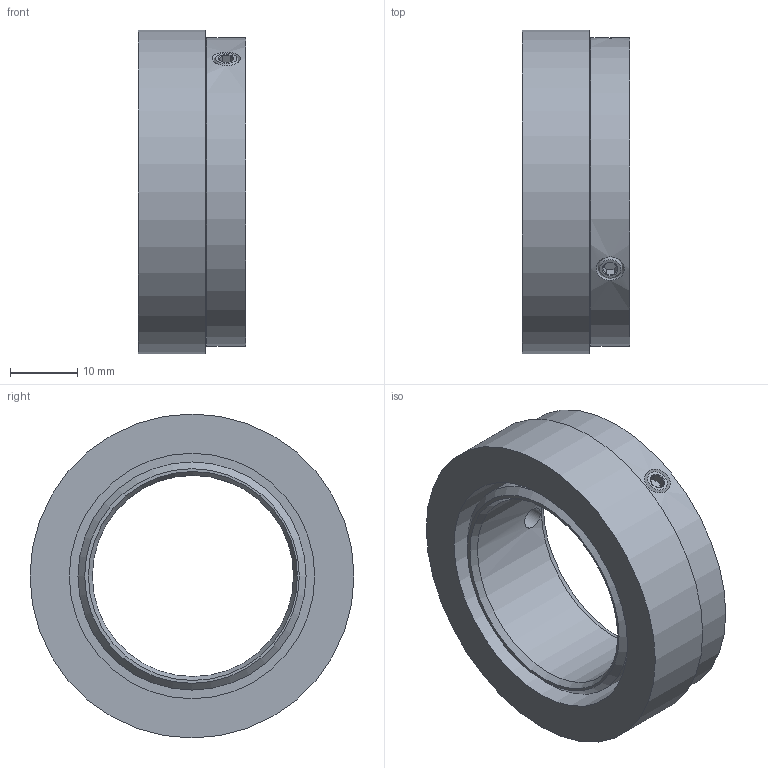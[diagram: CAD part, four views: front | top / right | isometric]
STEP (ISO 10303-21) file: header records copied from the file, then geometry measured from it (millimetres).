
FILE_DESCRIPTION (( 'STEP AP203' ), '1' );
FILE_NAME ('8.RI50.048.3000.112.STEP', '2013-07-16T07:59:08', ( 'Hodot' ), ( '' ), 'SwSTEP 2.0', 'SolidWorks 2012', '' );
FILE_SCHEMA (( 'CONFIG_CONTROL_DESIGN' ));
Length unit declared in the file: millimetre
Products named in the file (1): 8.RI50.048.3000.112
Bounding box: 16 x 48.3 x 48.3 mm (x, y, z)
Volume: 15136 mm3; surface area: 9621.5 mm2
Topology: 4 solids, 4 shells, 54 faces, 103 edges, 59 vertices
Faces by surface type: cone 23, plane 22, cylinder 9
Full cylindrical faces by diameter (mm): 3.3 x2, 4 x2, 30 x1, 34 x1, 36.6 x1, 46 x1, 48.3 x1
Entity records: 1519 total; most frequent: CARTESIAN_POINT 479, DIRECTION 206, ORIENTED_EDGE 152, AXIS2_PLACEMENT_3D 91, EDGE_LOOP 84, EDGE_CURVE 76, FACE_OUTER_BOUND 63, ADVANCED_FACE 54
